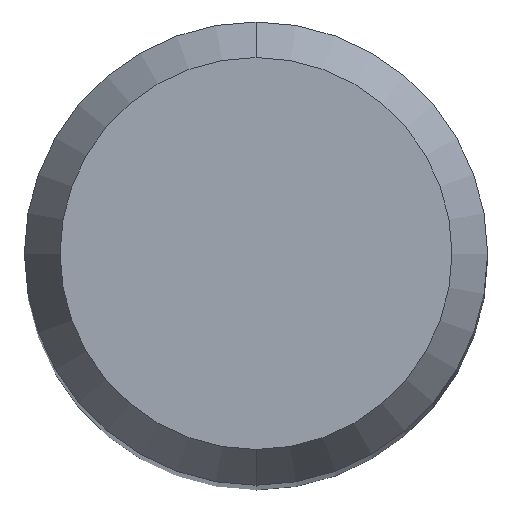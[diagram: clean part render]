
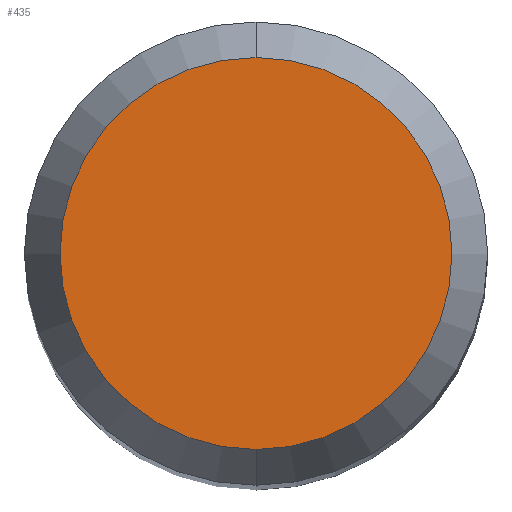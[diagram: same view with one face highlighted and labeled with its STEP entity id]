
A CAD part, top view. The second image highlights one B-rep face of the part: STEP entity #435.
In plain terms, the highlighted planar face has unit normal (0, 0, 1).
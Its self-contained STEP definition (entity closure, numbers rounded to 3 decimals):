
#321=EDGE_CURVE('',#427,#561,#739,.T.);
#427=VERTEX_POINT('',#858);
#435=ADVANCED_FACE('',(#867),#868,.T.);
#501=EDGE_CURVE('',#561,#427,#944,.T.);
#561=VERTEX_POINT('',#1010);
#739=CIRCLE('',#1302,2.538);
#858=CARTESIAN_POINT('',(0.0,2.538,0.0));
#867=FACE_OUTER_BOUND('',#1512,.T.);
#868=PLANE('',#1513);
#944=CIRCLE('',#1642,2.538);
#1010=CARTESIAN_POINT('',(0.,-2.538,0.0));
#1302=AXIS2_PLACEMENT_3D('',#1990,#1991,#1992);
#1512=EDGE_LOOP('',(#2140,#2141));
#1513=AXIS2_PLACEMENT_3D('',#2142,#2143,#2144);
#1642=AXIS2_PLACEMENT_3D('',#2232,#2233,#2234);
#1990=CARTESIAN_POINT('',(0.0,0.0,0.0));
#1991=DIRECTION('',(0.0,0.0,-1.0));
#1992=DIRECTION('',(0.0,1.0,0.0));
#2140=ORIENTED_EDGE('',*,*,#321,.F.);
#2141=ORIENTED_EDGE('',*,*,#501,.F.);
#2142=CARTESIAN_POINT('',(0.0,1.269,0.0));
#2143=DIRECTION('',(-0.0,0.0,1.0));
#2144=DIRECTION('',(0.0,-1.0,0.0));
#2232=CARTESIAN_POINT('',(0.0,0.0,0.0));
#2233=DIRECTION('',(0.0,0.0,-1.0));
#2234=DIRECTION('',(0.0,1.0,0.0));
